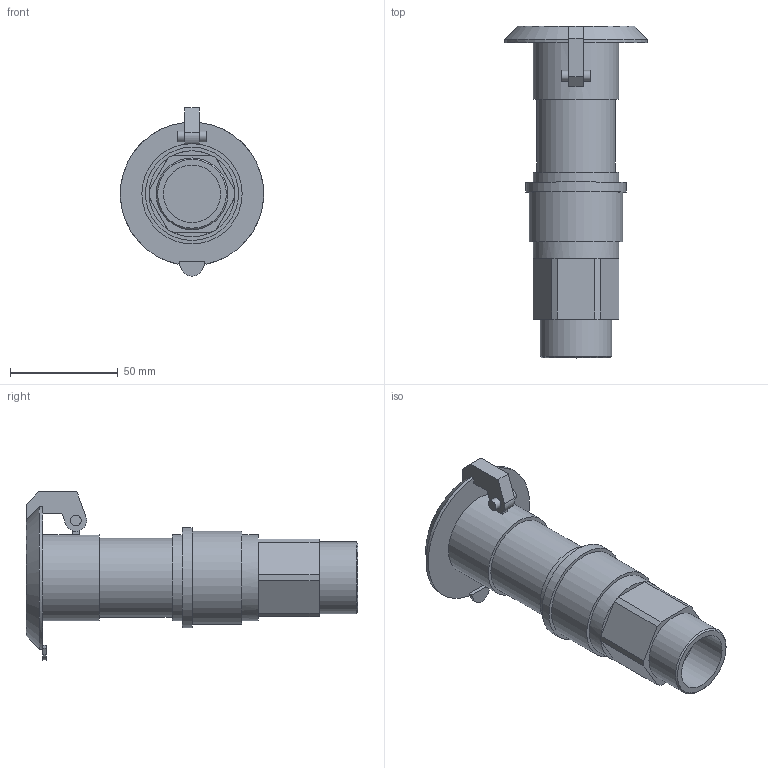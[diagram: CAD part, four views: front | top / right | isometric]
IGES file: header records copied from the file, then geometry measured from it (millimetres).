
Global section: file name: 03039030.ipt; native system: Autodesk Inventor 2015; preprocessor: unknown; author: KIM; date: 20180617.111936; units: millimetre
Bounding box: 66.43 x 154 x 78.12 mm (x, y, z)
Volume: 187844.5 mm3; surface area: 29636.9 mm2
Topology: 1 solids, 1 shells, 69 faces, 156 edges, 99 vertices
Faces by surface type: plane 54, cylinder 12, cone 2, revolution 1
Full cylindrical faces by diameter (mm): 4.987 x2, 33.249 x1, 36.574 x1, 39.899 x3, 43.224 x1, 46.549 x1
